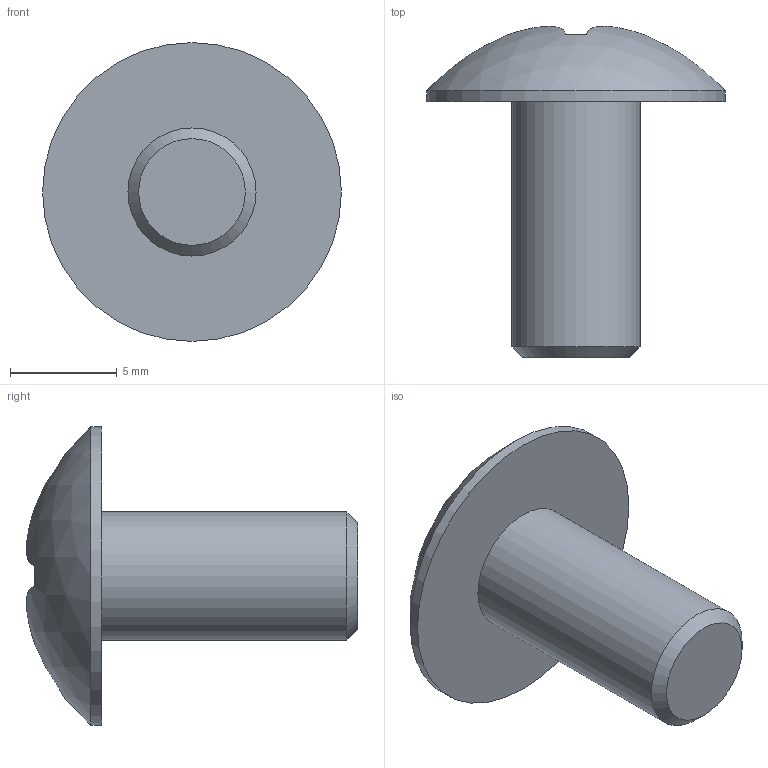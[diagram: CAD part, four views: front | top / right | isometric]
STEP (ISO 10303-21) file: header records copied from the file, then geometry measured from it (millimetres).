
FILE_DESCRIPTION(/* description */ (''),/* implementation_level */ '2;1');
FILE_NAME(/* name */ 'C:\Users\AMS43\Documents\Inventor\AMS\misumi\ボルト_ipt\ボルト_stp\TSB-06-12.ipt.stp',/* time_stamp */ '2016-10-06T11:46:44+09:00',/* author */ ('AMS43'),/* organization */ (''),/* preprocessor_version */ 'ST-DEVELOPER v15.2',/* originating_system */ 'Autodesk Inventor 2014',/* authorisation */ '');
FILE_SCHEMA (('AUTOMOTIVE_DESIGN { 1 0 10303 214 3 1 1 }'));
Length unit declared in the file: metre
Products named in the file (1): TSB-06-12
Bounding box: 14 x 15.52 x 14 mm (x, y, z)
Volume: 648.1 mm3; surface area: 612.8 mm2
Topology: 1 solids, 1 shells, 15 faces, 32 edges, 21 vertices
Faces by surface type: plane 7, cylinder 6, sphere 1, cone 1
Full cylindrical faces by diameter (mm): 6 x1, 14 x1
Entity records: 455 total; most frequent: CARTESIAN_POINT 102, DIRECTION 70, ORIENTED_EDGE 58, EDGE_CURVE 29, AXIS2_PLACEMENT_3D 29, VERTEX_POINT 21, EDGE_LOOP 20, FACE_OUTER_BOUND 15
